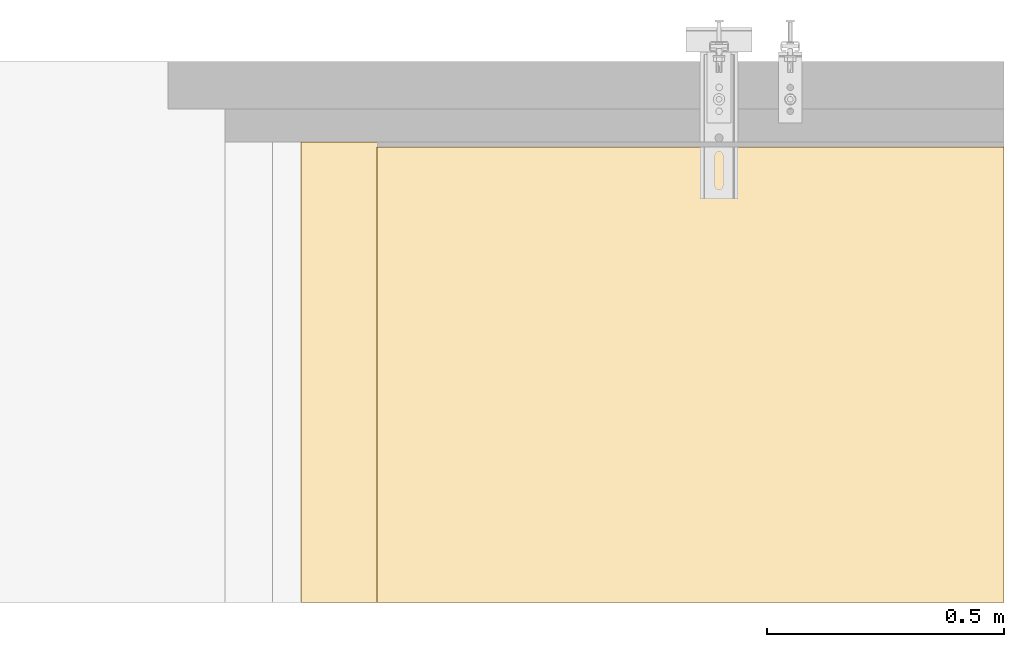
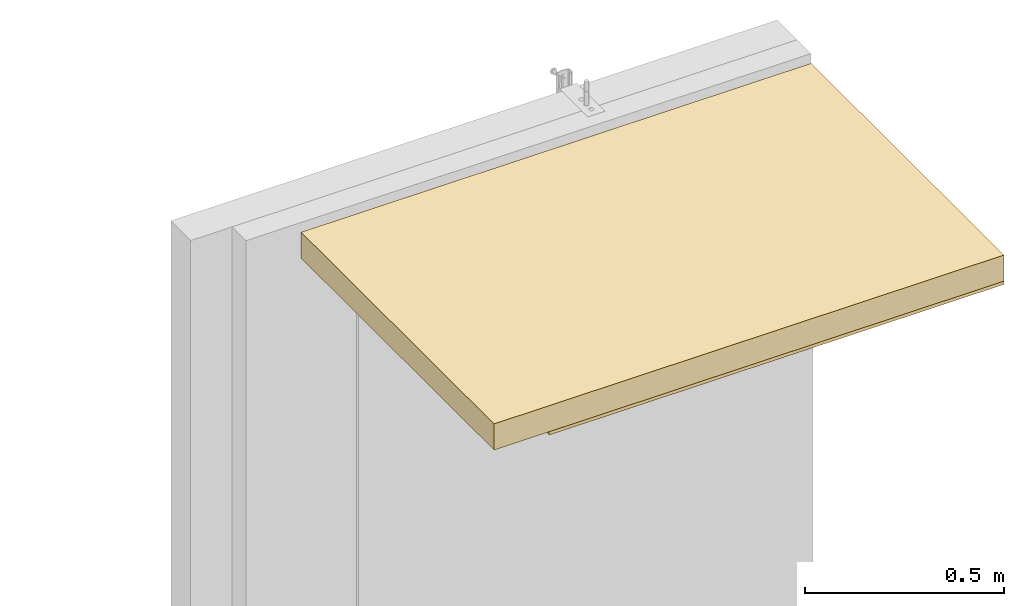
# One storey, part 7 of 7: 2 coverings.
"""IFC2X3 building model written with IfcOpenShell, lengths in metres."""

from ifc_helpers import new_model, entity, si_unit, converted_unit, derived_unit, direction, frame, frame_2d, origin, place, context, subcontext, project, spatial, rectangle, extrude, material, layer, layer_set, layer_usage, type_object, element, save


model = new_model("IFC2X3")

# Units and contexts
model_context = context("Model", 3, precision=1e-05, world=origin(), true_north=direction((6.123031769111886e-17, 1.0)))
body_context = subcontext(model_context, "Body", "Model", "MODEL_VIEW")
ifc_project = project(units=[si_unit("LENGTHUNIT", "METRE"), si_unit("AREAUNIT", "SQUARE_METRE"), converted_unit("PLANEANGLEUNIT", "DEGREE", entity("IfcPlaneAngleMeasure", 0.017453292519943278), si_unit("PLANEANGLEUNIT", "RADIAN"), dimensions=[0, 0, 0, 0, 0, 0, 0]), si_unit("VOLUMEUNIT", "CUBIC_METRE"), derived_unit("THERMALTRANSMITTANCEUNIT", [(si_unit("MASSUNIT", "GRAM", prefix="KILO"), 1), (si_unit("THERMODYNAMICTEMPERATUREUNIT", "KELVIN"), -1), (si_unit("TIMEUNIT", "SECOND"), -3)]), derived_unit("USERDEFINED", [(si_unit("MASSUNIT", "GRAM", prefix="KILO"), 1), (si_unit("THERMODYNAMICTEMPERATUREUNIT", "KELVIN"), -1), (si_unit("TIMEUNIT", "SECOND"), -2)]), derived_unit("THERMALRESISTANCEUNIT", [(si_unit("MASSUNIT", "GRAM", prefix="KILO"), -1), (si_unit("TIMEUNIT", "SECOND"), 3), (si_unit("THERMODYNAMICTEMPERATUREUNIT", "KELVIN"), 1)]), derived_unit("MASSDENSITYUNIT", [(si_unit("MASSUNIT", "GRAM", prefix="KILO"), 1), (si_unit("LENGTHUNIT", "METRE"), -3)]), derived_unit("VAPORPERMEABILITYUNIT", [(si_unit("LENGTHUNIT", "METRE"), -1), (si_unit("TIMEUNIT", "SECOND"), 1)]), derived_unit("USERDEFINED", [(si_unit("MASSUNIT", "GRAM", prefix="KILO"), 1), (si_unit("TIMEUNIT", "SECOND"), -3), (si_unit("LENGTHUNIT", "METRE"), 3), (si_unit("ELECTRICCURRENTUNIT", "AMPERE"), -2)]), si_unit("PRESSUREUNIT", "PASCAL")], contexts=[model_context])

# Site, building, storey
site_placement = place(None, origin())
site = spatial("IfcSite", under=ifc_project, at=site_placement, Name="Default", CompositionType="ELEMENT")
building_placement = place(site_placement, origin())
building = spatial("IfcBuilding", under=site, at=building_placement, CompositionType="ELEMENT")
storey_placement = place(building_placement, origin())
storey = spatial("IfcBuildingStorey", under=building, at=storey_placement, Name="L0", CompositionType="ELEMENT", Elevation=0.0)

# Coverings
ifc_material_1 = material(Name="Lana de roca")
ifc_layer_1 = layer(ifc_material_1, 0.08)
ifc_layer_set_1 = layer_set([ifc_layer_1], Name="Techo compuesto:Aislamiento")
ifc_layer_usage_1 = layer_usage(ifc_layer_set_1, "AXIS3", "NEGATIVE", 0.08)
covering_type_1 = type_object("IfcCoveringType", Name="Techo compuesto:Aislamiento", PredefinedType="CEILING")
covering_1_placement = place(storey_placement, frame((6.407720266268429, 14.794530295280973, 2.56)))
element("IfcCovering", 1, at=covering_1_placement, inside=storey, type_object=covering_type_1, material=ifc_layer_usage_1, Name="Techo compuesto:Aislamiento", ObjectType="Techo compuesto:Aislamiento", PredefinedType="CEILING", context=body_context, shape_type="SweptSolid", body=[
    extrude(rectangle(XDim=0.9700000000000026, YDim=1.4799999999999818, at=frame_2d((1.0824674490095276e-15, -1.0547118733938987e-15), x_axis=(1.0, 0.0))), frame((0.7399999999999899, 0.4850000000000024, 0.0), z_axis=(0.0, 0.0, 1.0), x_axis=(0.0, 1.0, 0.0)), (0.0, 0.0, 1.0), 0.08000000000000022),
])
ifc_material_2 = material(Name="Enlucido")
ifc_layer_2 = layer(ifc_material_2, 0.01)
ifc_layer_set_2 = layer_set([ifc_layer_2], Name="Techo compuesto:Placa")
ifc_layer_usage_2 = layer_usage(ifc_layer_set_2, "AXIS3", "NEGATIVE", 0.01)
covering_type_2 = type_object("IfcCoveringType", Name="Techo compuesto:Placa", PredefinedType="CEILING")
covering_2_placement = place(storey_placement, frame((6.56772026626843, 14.794530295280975, 2.5500000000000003)))
element("IfcCovering", 2, at=covering_2_placement, inside=storey, type_object=covering_type_2, material=ifc_layer_usage_2, Name="Techo compuesto:Placa", ObjectType="Techo compuesto:Placa", PredefinedType="CEILING", context=body_context, shape_type="SweptSolid", body=[
    extrude(rectangle(XDim=0.959999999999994, YDim=1.3199999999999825, at=frame_2d((0.0, 5.551115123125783e-16), x_axis=(1.0, 0.0))), frame((0.6599999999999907, 0.479999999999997, 0.0), z_axis=(0.0, 0.0, 1.0), x_axis=(0.0, 1.0, 0.0)), (0.0, 0.0, 1.0), 0.009999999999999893),
])

save(model, "model.ifc")
